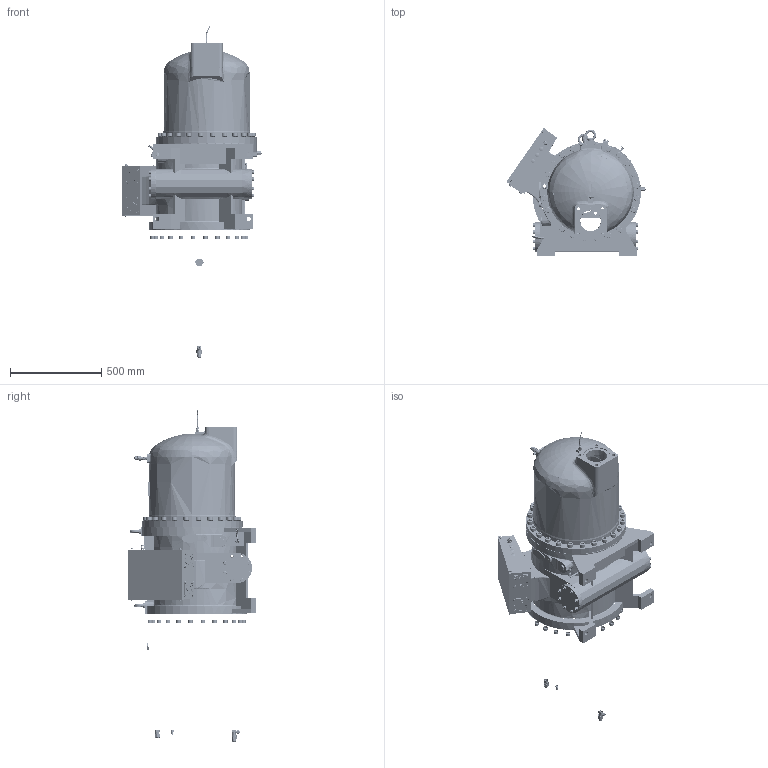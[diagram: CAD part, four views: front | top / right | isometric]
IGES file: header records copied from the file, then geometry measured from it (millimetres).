
Start section: SolidWorks IGES file using analytic representation for surfaces
Global section: file name: \\Datacenterrd1\@研發部\設計一課(冷媒)\(1)-文管中心\(2)-3D文管\(8)-Compressor 3Doutline(Surface)\RC2\RC2-BF\IGS\RC2-710BF outline.IGS; native system: SolidWorks 2013; preprocessor: SolidWorks 2013; author: hedylu; date: 141226.142550; units: centimetre
Bounding box: 762.01 x 700.45 x 1815.94 mm (x, y, z)
Surface area: 4232125.1 mm2 (no closed solid volume)
Topology: 0 solids, 0 shells, 2400 faces, 46955 edges, 46951 vertices
Faces by surface type: bspline 1619, revolution 781
